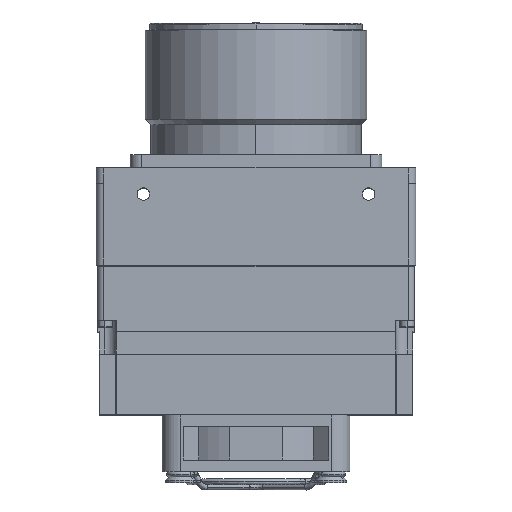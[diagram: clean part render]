
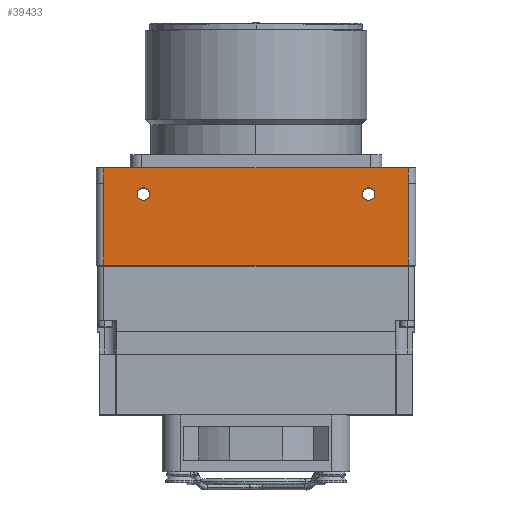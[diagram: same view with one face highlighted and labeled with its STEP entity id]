
A CAD part, top view. The second image highlights one B-rep face of the part: STEP entity #39433.
In plain terms, the highlighted planar face has unit normal (0, 0, 1).
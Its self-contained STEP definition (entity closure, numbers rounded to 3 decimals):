
#47 = ORIENTED_EDGE ( 'NONE', *, *, #43397, .T. ) ;
#149 = ORIENTED_EDGE ( 'NONE', *, *, #7822, .F. ) ;
#227 = VERTEX_POINT ( 'NONE', #11605 ) ;
#1245 = EDGE_LOOP ( 'NONE', ( #149, #31531 ) ) ;
#2202 = CARTESIAN_POINT ( 'NONE',  ( 30.5, 48.93, 42.5 ) ) ;
#3168 = CARTESIAN_POINT ( 'NONE',  ( -50.5, 48.93, 42.5 ) ) ;
#3541 = DIRECTION ( 'NONE',  ( 0., 0., 1. ) ) ;
#3661 = EDGE_LOOP ( 'NONE', ( #42345, #48763 ) ) ;
#4354 = DIRECTION ( 'NONE',  ( 0., 1., 0. ) ) ;
#5676 = LINE ( 'NONE', #40738, #21900 ) ;
#6617 = CARTESIAN_POINT ( 'NONE',  ( 20., 38.25, 42.5 ) ) ;
#7173 = CIRCLE ( 'NONE', #11818, 1.65 ) ;
#7689 = AXIS2_PLACEMENT_3D ( 'NONE', #39927, #42379, #36720 ) ;
#7699 = EDGE_CURVE ( 'NONE', #50073, #9562, #26482, .T. ) ;
#7822 = EDGE_CURVE ( 'NONE', #33320, #32509, #43406, .T. ) ;
#8166 = PLANE ( 'NONE',  #7689 ) ;
#9528 = ORIENTED_EDGE ( 'NONE', *, *, #50173, .F. ) ;
#9562 = VERTEX_POINT ( 'NONE', #32649 ) ;
#10214 = CARTESIAN_POINT ( 'NONE',  ( 30.5, 48.93, 42.5 ) ) ;
#11352 = DIRECTION ( 'NONE',  ( 1., 0., 0. ) ) ;
#11605 = CARTESIAN_POINT ( 'NONE',  ( -50.5, 43.6, 42.5 ) ) ;
#11818 = AXIS2_PLACEMENT_3D ( 'NONE', #28098, #3541, #39531 ) ;
#12150 = VECTOR ( 'NONE', #14554, 1000. ) ;
#13066 = ORIENTED_EDGE ( 'NONE', *, *, #46175, .T. ) ;
#13661 = DIRECTION ( 'NONE',  ( 0., 1., 0. ) ) ;
#13783 = ORIENTED_EDGE ( 'NONE', *, *, #24494, .T. ) ;
#13793 = CARTESIAN_POINT ( 'NONE',  ( 30.5, 39.4, 42.5 ) ) ;
#13904 = CARTESIAN_POINT ( 'NONE',  ( -40., 34.95, 42.5 ) ) ;
#13934 = EDGE_CURVE ( 'NONE', #9562, #50073, #7173, .T. ) ;
#14021 = VERTEX_POINT ( 'NONE', #30396 ) ;
#14325 = CARTESIAN_POINT ( 'NONE',  ( 20., 36.6, 42.5 ) ) ;
#14554 = DIRECTION ( 'NONE',  ( 0., -1., 0. ) ) ;
#14676 = FACE_OUTER_BOUND ( 'NONE', #44128, .T. ) ;
#15935 = DIRECTION ( 'NONE',  ( 0., 1., 0. ) ) ;
#16247 = AXIS2_PLACEMENT_3D ( 'NONE', #19405, #44673, #13661 ) ;
#19405 = CARTESIAN_POINT ( 'NONE',  ( -40., 36.6, 42.5 ) ) ;
#19469 = LINE ( 'NONE', #27567, #12150 ) ;
#20311 = ORIENTED_EDGE ( 'NONE', *, *, #37788, .T. ) ;
#20837 = AXIS2_PLACEMENT_3D ( 'NONE', #23968, #32086, #4354 ) ;
#21100 = VECTOR ( 'NONE', #15935, 1000. ) ;
#21547 = CARTESIAN_POINT ( 'NONE',  ( 30.5, 43.6, 42.5 ) ) ;
#21900 = VECTOR ( 'NONE', #11352, 1000. ) ;
#22378 = CARTESIAN_POINT ( 'NONE',  ( -40., 38.25, 42.5 ) ) ;
#22800 = DIRECTION ( 'NONE',  ( 0., -1., 0. ) ) ;
#23464 = ORIENTED_EDGE ( 'NONE', *, *, #41826, .T. ) ;
#23648 = FACE_BOUND ( 'NONE', #1245, .T. ) ;
#23968 = CARTESIAN_POINT ( 'NONE',  ( -40., 36.6, 42.5 ) ) ;
#24086 = LINE ( 'NONE', #10214, #21100 ) ;
#24297 = VERTEX_POINT ( 'NONE', #21547 ) ;
#24494 = EDGE_CURVE ( 'NONE', #44323, #42016, #24086, .T. ) ;
#24947 = CARTESIAN_POINT ( 'NONE',  ( -50.5, 17.7, 42.5 ) ) ;
#26482 = CIRCLE ( 'NONE', #29615, 1.65 ) ;
#27361 = DIRECTION ( 'NONE',  ( 0., 1., 0. ) ) ;
#27567 = CARTESIAN_POINT ( 'NONE',  ( -50.5, 48.93, 42.5 ) ) ;
#28098 = CARTESIAN_POINT ( 'NONE',  ( 20., 36.6, 42.5 ) ) ;
#28374 = LINE ( 'NONE', #39082, #45990 ) ;
#29615 = AXIS2_PLACEMENT_3D ( 'NONE', #14325, #49384, #27361 ) ;
#30100 = EDGE_CURVE ( 'NONE', #32509, #33320, #47976, .T. ) ;
#30396 = CARTESIAN_POINT ( 'NONE',  ( -50.5, 39.4, 42.5 ) ) ;
#31531 = ORIENTED_EDGE ( 'NONE', *, *, #30100, .F. ) ;
#32086 = DIRECTION ( 'NONE',  ( 0., 0., 1. ) ) ;
#32509 = VERTEX_POINT ( 'NONE', #13904 ) ;
#32649 = CARTESIAN_POINT ( 'NONE',  ( 20., 34.95, 42.5 ) ) ;
#33220 = DIRECTION ( 'NONE',  ( 0., 1., 0. ) ) ;
#33261 = VECTOR ( 'NONE', #33220, 1000. ) ;
#33320 = VERTEX_POINT ( 'NONE', #22378 ) ;
#35064 = FACE_BOUND ( 'NONE', #3661, .T. ) ;
#36720 = DIRECTION ( 'NONE',  ( -1., 0., 0. ) ) ;
#37306 = LINE ( 'NONE', #2202, #33261 ) ;
#37788 = EDGE_CURVE ( 'NONE', #40863, #44323, #28374, .T. ) ;
#38620 = CARTESIAN_POINT ( 'NONE',  ( 30.5, 17.7, 42.5 ) ) ;
#39082 = CARTESIAN_POINT ( 'NONE',  ( -10., 17.7, 42.5 ) ) ;
#39433 = ADVANCED_FACE ( 'NONE', ( #23648, #35064, #14676 ), #8166, .T. ) ;
#39531 = DIRECTION ( 'NONE',  ( 0., 1., 0. ) ) ;
#39927 = CARTESIAN_POINT ( 'NONE',  ( -10., 48.93, 42.5 ) ) ;
#40738 = CARTESIAN_POINT ( 'NONE',  ( -52.5, 43.6, 42.5 ) ) ;
#40863 = VERTEX_POINT ( 'NONE', #24947 ) ;
#41826 = EDGE_CURVE ( 'NONE', #227, #14021, #19469, .T. ) ;
#42016 = VERTEX_POINT ( 'NONE', #13793 ) ;
#42345 = ORIENTED_EDGE ( 'NONE', *, *, #7699, .F. ) ;
#42379 = DIRECTION ( 'NONE',  ( 0., 0., 1. ) ) ;
#43397 = EDGE_CURVE ( 'NONE', #14021, #40863, #47283, .T. ) ;
#43406 = CIRCLE ( 'NONE', #16247, 1.65 ) ;
#44128 = EDGE_LOOP ( 'NONE', ( #9528, #23464, #47, #20311, #13783, #13066 ) ) ;
#44137 = VECTOR ( 'NONE', #22800, 1000. ) ;
#44323 = VERTEX_POINT ( 'NONE', #38620 ) ;
#44673 = DIRECTION ( 'NONE',  ( 0., 0., 1. ) ) ;
#45990 = VECTOR ( 'NONE', #50479, 1000. ) ;
#46175 = EDGE_CURVE ( 'NONE', #42016, #24297, #37306, .T. ) ;
#47283 = LINE ( 'NONE', #3168, #44137 ) ;
#47976 = CIRCLE ( 'NONE', #20837, 1.65 ) ;
#48763 = ORIENTED_EDGE ( 'NONE', *, *, #13934, .F. ) ;
#49384 = DIRECTION ( 'NONE',  ( 0., 0., 1. ) ) ;
#50073 = VERTEX_POINT ( 'NONE', #6617 ) ;
#50173 = EDGE_CURVE ( 'NONE', #227, #24297, #5676, .T. ) ;
#50479 = DIRECTION ( 'NONE',  ( 1., 0., 0. ) ) ;
